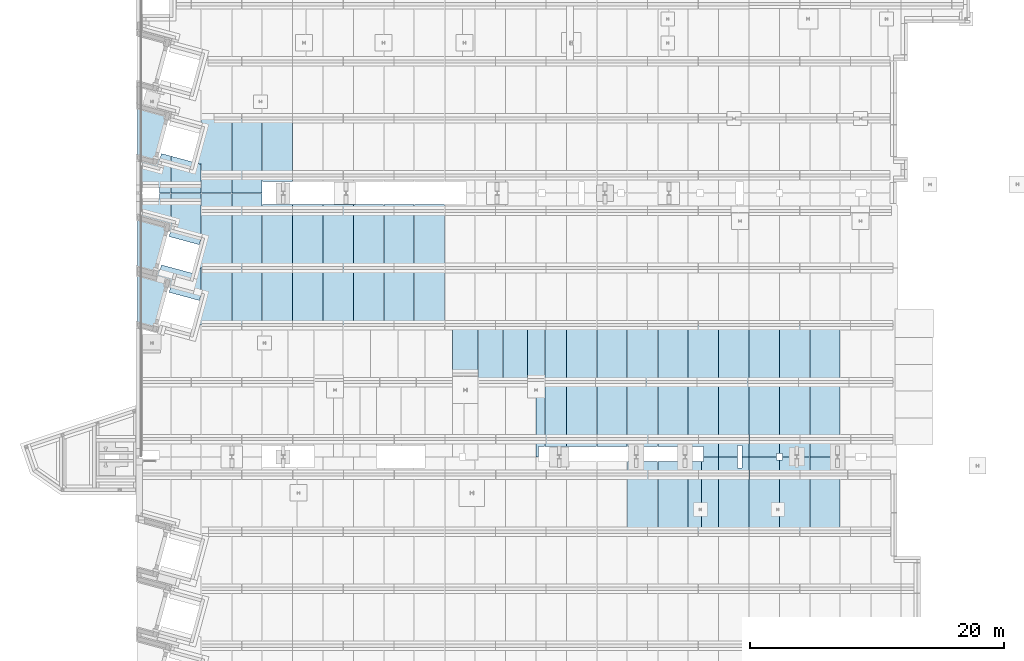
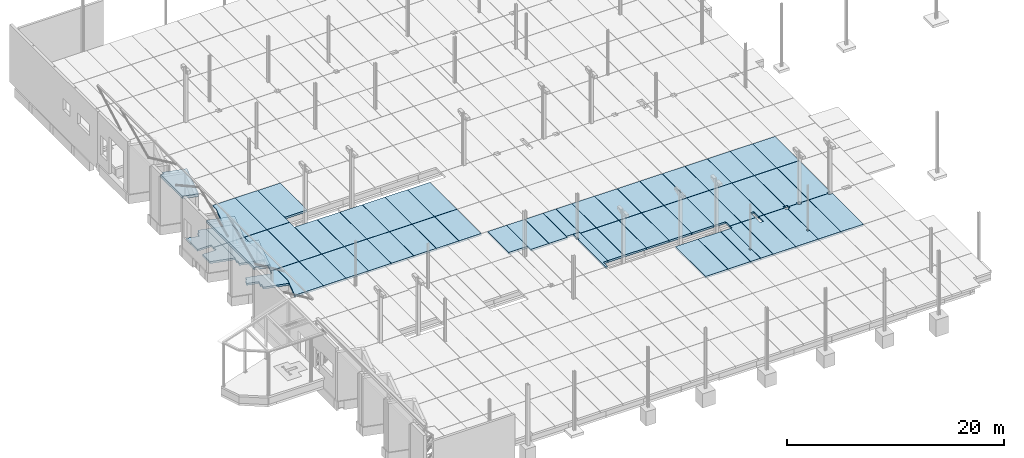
# One storey, part 48 of 59: 59 slabs.
"""IFC2X3 building model written with IfcOpenShell, lengths in metres."""

from ifc_helpers import new_model, entity, si_unit, converted_unit, derived_unit, frame, frame_2d, origin, origin_with_axes, place, context, subcontext, project, spatial, polyline, rectangle, outline, extrude, material, element, save


model = new_model("IFC2X3")

# Units and contexts
model_context = context("Model", 3, precision=1e-05, world=origin())
body_context = subcontext(model_context, "Body", "Model", "MODEL_VIEW")
ifc_project = project(units=[si_unit("LENGTHUNIT", "METRE"), si_unit("AREAUNIT", "SQUARE_METRE"), si_unit("VOLUMEUNIT", "CUBIC_METRE"), si_unit("MASSUNIT", "GRAM", prefix="KILO"), converted_unit("PLANEANGLEUNIT", "DEGREE", entity("IfcPlaneAngleMeasure", 0.0174532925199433), si_unit("PLANEANGLEUNIT", "RADIAN"), dimensions=[0, 0, 0, 0, 0, 0, 0]), derived_unit("THERMALTRANSMITTANCEUNIT", [(si_unit("POWERUNIT", "WATT"), 1), (si_unit("THERMODYNAMICTEMPERATUREUNIT", "KELVIN"), -1), (si_unit("LENGTHUNIT", "METRE"), -2)]), derived_unit("VOLUMETRICFLOWRATEUNIT", [(si_unit("LENGTHUNIT", "METRE"), 3), (converted_unit("TIMEUNIT", "hour", entity("IfcTimeMeasure", 3600.0), si_unit("TIMEUNIT", "SECOND"), dimensions=[0, 0, 1, 0, 0, 0, 0]), -1), (si_unit("LENGTHUNIT", "METRE"), -1)])], contexts=[model_context])

# Site, building, storey
site_placement = place(None, origin())
site = spatial("IfcSite", under=ifc_project, at=site_placement, Name="TWP_Speiseverteilzentrum SBW VZ II", CompositionType="ELEMENT")
building_placement = place(site_placement, origin())
building = spatial("IfcBuilding", under=site, at=building_placement, Name="Speiseverteilzentrum SBW VZ II", CompositionType="ELEMENT")
storey_placement = place(building_placement, frame((0.0, 0.0, 1.7307)))
storey = spatial("IfcBuildingStorey", under=building, at=storey_placement, Name="EG_Produktion_FFB", CompositionType="ELEMENT", Elevation=1.7307)

# Slabs
ifc_material_1 = material(Name="Stahlbeton")
slab_1_placement = place(storey_placement, frame((9.33999999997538, 40.6800323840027, 4.2)))
element("IfcSlab", 1, at=slab_1_placement, inside=storey, material=ifc_material_1, Name="Stb.-Rahmen", PredefinedType="ROOF", context=body_context, shape_type="SweptSolid", body=[
    extrude(outline(polyline([(0.0, 9.15379601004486), (0.0, 0.403404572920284), (1.49195659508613, 0.0), (2.58802923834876, 4.05372898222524), (1.47930604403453, 4.35351250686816), (2.58802923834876, 8.45402844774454), (0.0, 9.15379601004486)])), origin_with_axes(), (0.0, 0.0, 1.0), 0.3),
])
ifc_material_2 = material(Name="Stahlbeton")
slab_2_placement = place(storey_placement, frame((9.33999999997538, 53.8638403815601, 4.2)))
element("IfcSlab", 2, at=slab_2_placement, inside=storey, material=ifc_material_2, Name="Stb.-Rahmen", PredefinedType="ROOF", context=body_context, shape_type="SweptSolid", body=[
    extrude(outline(polyline([(-0.47999763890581, 1.3726335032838), (-0.779997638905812, 1.45374938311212), (-0.779997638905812, -2.5855697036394), (0.711958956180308, -2.98897427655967), (1.80803159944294, 1.06475470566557), (-0.47999763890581, 1.68340638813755), (-0.47999763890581, 1.3726335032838)])), frame((0.779997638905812, 2.98897427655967, 0.0), z_axis=(0.0, 0.0, 1.0), x_axis=(1.0, 0.0, 0.0)), (0.0, 0.0, 1.0), 0.3),
])
ifc_material_3 = material(Name="Stahlbetonfertigteil")
slab_3_placement = place(storey_placement, frame((23.9999999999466, 41.2100000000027, -0.47)))
element("IfcSlab", 3, at=slab_3_placement, inside=storey, material=ifc_material_3, Name="Stahlbetonfertigteilplatte", PredefinedType="BASESLAB", context=body_context, shape_type="SweptSolid", body=[
    extrude(rectangle(XDim=4.47999999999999, YDim=2.38, at=frame_2d((1.19, -2.23999999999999), x_axis=(0.0, -1.0))), frame((0.0, 4.47999999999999, 0.0), z_axis=(0.0, 0.0, 1.0), x_axis=(1.0, 0.0, 0.0)), (0.0, 0.0, 1.0), 0.22),
])
ifc_material_4 = material(Name="Stahlbetonfertigteil")
slab_4_placement = place(storey_placement, frame((16.7999999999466, 41.2100000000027, -0.47)))
element("IfcSlab", 4, at=slab_4_placement, inside=storey, material=ifc_material_4, Name="Stahlbetonfertigteilplatte", PredefinedType="BASESLAB", context=body_context, shape_type="SweptSolid", body=[
    extrude(rectangle(XDim=4.47999999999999, YDim=2.38, at=frame_2d((1.19, -2.23999999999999), x_axis=(0.0, -1.0))), frame((0.0, 4.47999999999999, 0.0), z_axis=(0.0, 0.0, 1.0), x_axis=(1.0, 0.0, 0.0)), (0.0, 0.0, 1.0), 0.22),
])
ifc_material_5 = material(Name="Stahlbetonfertigteil")
slab_5_placement = place(storey_placement, frame((19.1999999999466, 41.2100000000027, -0.47)))
element("IfcSlab", 5, at=slab_5_placement, inside=storey, material=ifc_material_5, Name="Stahlbetonfertigteilplatte", PredefinedType="BASESLAB", context=body_context, shape_type="SweptSolid", body=[
    extrude(rectangle(XDim=4.47999999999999, YDim=2.38, at=frame_2d((1.19, -2.23999999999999), x_axis=(0.0, -1.0))), frame((0.0, 4.47999999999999, 0.0), z_axis=(0.0, 0.0, 1.0), x_axis=(1.0, 0.0, 0.0)), (0.0, 0.0, 1.0), 0.22),
])
ifc_material_6 = material(Name="Stahlbetonfertigteil")
slab_6_placement = place(storey_placement, frame((21.5999999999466, 41.2100000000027, -0.47)))
element("IfcSlab", 6, at=slab_6_placement, inside=storey, material=ifc_material_6, Name="Stahlbetonfertigteilplatte", PredefinedType="BASESLAB", context=body_context, shape_type="SweptSolid", body=[
    extrude(rectangle(XDim=4.47999999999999, YDim=2.38, at=frame_2d((1.19, -2.23999999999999), x_axis=(0.0, -1.0))), frame((0.0, 4.47999999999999, 0.0), z_axis=(0.0, 0.0, 1.0), x_axis=(1.0, 0.0, 0.0)), (0.0, 0.0, 1.0), 0.22),
])
ifc_material_7 = material(Name="Stahlbetonfertigteil")
slab_7_placement = place(storey_placement, frame((26.3999999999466, 41.2100000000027, -0.47)))
element("IfcSlab", 7, at=slab_7_placement, inside=storey, material=ifc_material_7, Name="Stahlbetonfertigteilplatte", PredefinedType="BASESLAB", context=body_context, shape_type="SweptSolid", body=[
    extrude(rectangle(XDim=4.47999999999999, YDim=2.38, at=frame_2d((1.19, -2.23999999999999), x_axis=(0.0, -1.0))), frame((0.0, 4.47999999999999, 0.0), z_axis=(0.0, 0.0, 1.0), x_axis=(1.0, 0.0, 0.0)), (0.0, 0.0, 1.0), 0.22),
])
ifc_material_8 = material(Name="Stahlbetonfertigteil")
slab_8_placement = place(storey_placement, frame((28.7999999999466, 41.2100000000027, -0.47)))
element("IfcSlab", 8, at=slab_8_placement, inside=storey, material=ifc_material_8, Name="Stahlbetonfertigteilplatte", PredefinedType="BASESLAB", context=body_context, shape_type="SweptSolid", body=[
    extrude(rectangle(XDim=4.47999999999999, YDim=2.38, at=frame_2d((1.19, -2.23999999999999), x_axis=(0.0, -1.0))), frame((0.0, 4.47999999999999, 0.0), z_axis=(0.0, 0.0, 1.0), x_axis=(1.0, 0.0, 0.0)), (0.0, 0.0, 1.0), 0.22),
])
ifc_material_9 = material(Name="Stahlbetonfertigteil")
slab_9_placement = place(storey_placement, frame((31.1999999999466, 41.2100000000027, -0.47)))
element("IfcSlab", 9, at=slab_9_placement, inside=storey, material=ifc_material_9, Name="Stahlbetonfertigteilplatte", PredefinedType="BASESLAB", context=body_context, shape_type="SweptSolid", body=[
    extrude(rectangle(XDim=4.47999999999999, YDim=2.38, at=frame_2d((1.19, -2.23999999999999), x_axis=(0.0, -1.0))), frame((0.0, 4.47999999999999, 0.0), z_axis=(0.0, 0.0, 1.0), x_axis=(1.0, 0.0, 0.0)), (0.0, 0.0, 1.0), 0.22),
])
ifc_material_10 = material(Name="Stahlbetonfertigteil")
slab_10_placement = place(storey_placement, frame((43.1999999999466, 36.7100000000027, -0.47)))
element("IfcSlab", 10, at=slab_10_placement, inside=storey, material=ifc_material_10, Name="Stahlbetonfertigteilplatte", PredefinedType="BASESLAB", context=body_context, shape_type="SweptSolid", body=[
    extrude(rectangle(XDim=4.47999999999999, YDim=2.38, at=frame_2d((1.19, -2.23999999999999), x_axis=(0.0, -1.0))), frame((0.0, 4.47999999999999, 0.0), z_axis=(0.0, 0.0, 1.0), x_axis=(1.0, 0.0, 0.0)), (0.0, 0.0, 1.0), 0.22),
])
ifc_material_11 = material(Name="Stahlbetonfertigteil")
slab_11_placement = place(storey_placement, frame((47.9999999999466, 36.7100000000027, -0.47)))
element("IfcSlab", 11, at=slab_11_placement, inside=storey, material=ifc_material_11, Name="Stahlbetonfertigteilplatte", PredefinedType="BASESLAB", context=body_context, shape_type="SweptSolid", body=[
    extrude(rectangle(XDim=4.47999999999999, YDim=2.38, at=frame_2d((1.19, -2.23999999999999), x_axis=(0.0, -1.0))), frame((0.0, 4.47999999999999, 0.0), z_axis=(0.0, 0.0, 1.0), x_axis=(1.0, 0.0, 0.0)), (0.0, 0.0, 1.0), 0.22),
])
ifc_material_12 = material(Name="Stahlbetonfertigteil")
slab_12_placement = place(storey_placement, frame((50.3999999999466, 36.7100000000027, -0.47)))
element("IfcSlab", 12, at=slab_12_placement, inside=storey, material=ifc_material_12, Name="Stahlbetonfertigteilplatte", PredefinedType="BASESLAB", context=body_context, shape_type="SweptSolid", body=[
    extrude(rectangle(XDim=4.47999999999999, YDim=2.38, at=frame_2d((1.19, -2.23999999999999), x_axis=(0.0, -1.0))), frame((0.0, 4.47999999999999, 0.0), z_axis=(0.0, 0.0, 1.0), x_axis=(1.0, 0.0, 0.0)), (0.0, 0.0, 1.0), 0.22),
])
ifc_material_13 = material(Name="Stahlbetonfertigteil")
slab_13_placement = place(storey_placement, frame((52.7999999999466, 36.7100000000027, -0.47)))
element("IfcSlab", 13, at=slab_13_placement, inside=storey, material=ifc_material_13, Name="Stahlbetonfertigteilplatte", PredefinedType="BASESLAB", context=body_context, shape_type="SweptSolid", body=[
    extrude(rectangle(XDim=4.47999999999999, YDim=2.38, at=frame_2d((1.19, -2.23999999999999), x_axis=(0.0, -1.0))), frame((0.0, 4.47999999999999, 0.0), z_axis=(0.0, 0.0, 1.0), x_axis=(1.0, 0.0, 0.0)), (0.0, 0.0, 1.0), 0.22),
])
ifc_material_14 = material(Name="Stahlbetonfertigteil")
slab_14_placement = place(storey_placement, frame((55.1999999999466, 36.7100000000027, -0.47)))
element("IfcSlab", 14, at=slab_14_placement, inside=storey, material=ifc_material_14, Name="Stahlbetonfertigteilplatte", PredefinedType="BASESLAB", context=body_context, shape_type="SweptSolid", body=[
    extrude(rectangle(XDim=4.47999999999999, YDim=2.38, at=frame_2d((1.19, -2.23999999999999), x_axis=(0.0, -1.0))), frame((0.0, 4.47999999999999, 0.0), z_axis=(0.0, 0.0, 1.0), x_axis=(1.0, 0.0, 0.0)), (0.0, 0.0, 1.0), 0.22),
])
ifc_material_15 = material(Name="Stahlbetonfertigteil")
slab_15_placement = place(storey_placement, frame((57.5999999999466, 36.7100000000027, -0.47)))
element("IfcSlab", 15, at=slab_15_placement, inside=storey, material=ifc_material_15, Name="Stahlbetonfertigteilplatte", PredefinedType="BASESLAB", context=body_context, shape_type="SweptSolid", body=[
    extrude(rectangle(XDim=4.47999999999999, YDim=2.38, at=frame_2d((1.19, -2.23999999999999), x_axis=(0.0, -1.0))), frame((0.0, 4.47999999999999, 0.0), z_axis=(0.0, 0.0, 1.0), x_axis=(1.0, 0.0, 0.0)), (0.0, 0.0, 1.0), 0.22),
])
ifc_material_16 = material(Name="Stahlbetonfertigteil")
slab_16_placement = place(storey_placement, frame((59.9999999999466, 36.7100000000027, -0.47)))
element("IfcSlab", 16, at=slab_16_placement, inside=storey, material=ifc_material_16, Name="Stahlbetonfertigteilplatte", PredefinedType="BASESLAB", context=body_context, shape_type="SweptSolid", body=[
    extrude(rectangle(XDim=4.47999999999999, YDim=2.38, at=frame_2d((1.19, -2.23999999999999), x_axis=(0.0, -1.0))), frame((0.0, 4.47999999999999, 0.0), z_axis=(0.0, 0.0, 1.0), x_axis=(1.0, 0.0, 0.0)), (0.0, 0.0, 1.0), 0.22),
])
ifc_material_17 = material(Name="Stahlbetonfertigteil")
slab_17_placement = place(storey_placement, frame((62.3999999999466, 36.7100000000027, -0.47)))
element("IfcSlab", 17, at=slab_17_placement, inside=storey, material=ifc_material_17, Name="Stahlbetonfertigteilplatte", PredefinedType="BASESLAB", context=body_context, shape_type="SweptSolid", body=[
    extrude(rectangle(XDim=4.47999999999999, YDim=2.38, at=frame_2d((1.19, -2.23999999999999), x_axis=(0.0, -1.0))), frame((0.0, 4.47999999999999, 0.0), z_axis=(0.0, 0.0, 1.0), x_axis=(1.0, 0.0, 0.0)), (0.0, 0.0, 1.0), 0.22),
])
ifc_material_18 = material(Name="Stahlbetonfertigteil")
slab_18_placement = place(storey_placement, frame((45.5999999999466, 36.7100000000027, -0.47)))
element("IfcSlab", 18, at=slab_18_placement, inside=storey, material=ifc_material_18, Name="Stahlbetonfertigteilplatte", PredefinedType="BASESLAB", context=body_context, shape_type="SweptSolid", body=[
    extrude(rectangle(XDim=4.47999999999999, YDim=2.38, at=frame_2d((1.19, -2.23999999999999), x_axis=(0.0, -1.0))), frame((0.0, 4.47999999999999, 0.0), z_axis=(0.0, 0.0, 1.0), x_axis=(1.0, 0.0, 0.0)), (0.0, 0.0, 1.0), 0.22),
])
ifc_material_19 = material(Name="Stahlbetonfertigteil")
slab_19_placement = place(storey_placement, frame((19.1999999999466, 52.51, -0.47)))
element("IfcSlab", 19, at=slab_19_placement, inside=storey, material=ifc_material_19, Name="Stahlbetonfertigteilplatte", PredefinedType="BASESLAB", context=body_context, shape_type="SweptSolid", body=[
    extrude(rectangle(XDim=4.9800000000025, YDim=2.38, at=frame_2d((-1.19, 2.49000000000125), x_axis=(0.0, 1.0))), frame((2.38, 0.0, 0.0), z_axis=(0.0, 0.0, 1.0), x_axis=(1.0, 0.0, 0.0)), (0.0, 0.0, 1.0), 0.22),
])
ifc_material_20 = material(Name="Stahlbetonfertigteil")
slab_20_placement = place(storey_placement, frame((16.7999999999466, 51.6100000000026, -0.47)))
element("IfcSlab", 20, at=slab_20_placement, inside=storey, material=ifc_material_20, Name="Stahlbetonfertigteilplatte", PredefinedType="BASESLAB", context=body_context, shape_type="SweptSolid", body=[
    extrude(rectangle(XDim=5.87999999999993, YDim=2.38, at=frame_2d((1.19, -2.93999999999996), x_axis=(0.0, -1.0))), frame((0.0, 5.87999999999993, 0.0), z_axis=(0.0, 0.0, 1.0), x_axis=(1.0, 0.0, 0.0)), (0.0, 0.0, 1.0), 0.22),
])
ifc_material_21 = material(Name="Stahlbetonfertigteil")
slab_21_placement = place(storey_placement, frame((62.3999999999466, 30.8100000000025, -0.47)))
element("IfcSlab", 21, at=slab_21_placement, inside=storey, material=ifc_material_21, Name="Stahlbetonfertigteilplatte", PredefinedType="BASESLAB", context=body_context, shape_type="SweptSolid", body=[
    extrude(outline(polyline([(2.38, 0.175103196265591), (2.38, 5.87999999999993), (0.0, 5.87999999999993), (0.0, 0.0), (1.99500000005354, 0.0), (1.99500000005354, 0.175103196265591), (2.38, 0.175103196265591)])), origin_with_axes(), (0.0, 0.0, 1.0), 0.22),
])
ifc_material_22 = material(Name="Stahlbetonfertigteil")
slab_22_placement = place(storey_placement, frame((62.3999999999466, 24.9100000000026, -0.47)))
element("IfcSlab", 22, at=slab_22_placement, inside=storey, material=ifc_material_22, Name="Stahlbetonfertigteilplatte", PredefinedType="BASESLAB", context=body_context, shape_type="SweptSolid", body=[
    extrude(outline(polyline([(0.0, 0.0), (2.38, 0.0), (2.38, 5.7051031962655), (1.99500000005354, 5.7051031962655), (1.99500000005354, 5.87999999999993), (0.0, 5.87999999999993), (0.0, 0.0)])), origin_with_axes(), (0.0, 0.0, 1.0), 0.22),
])
ifc_material_23 = material(Name="Stahlbetonfertigteil")
slab_23_placement = place(storey_placement, frame((57.5999999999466, 30.8100000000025, -0.47)))
element("IfcSlab", 23, at=slab_23_placement, inside=storey, material=ifc_material_23, Name="Stahlbetonfertigteilplatte", PredefinedType="BASESLAB", context=body_context, shape_type="SweptSolid", body=[
    extrude(outline(polyline([(2.38, 0.240103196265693), (2.38, 5.87999999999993), (0.0, 5.87999999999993), (0.0, 0.0), (2.15000000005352, 0.0), (2.15000000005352, 0.240103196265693), (2.38, 0.240103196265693)])), origin_with_axes(), (0.0, 0.0, 1.0), 0.22),
])
ifc_material_24 = material(Name="Stahlbetonfertigteil")
slab_24_placement = place(storey_placement, frame((55.1999999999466, 30.8100000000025, -0.47)))
element("IfcSlab", 24, at=slab_24_placement, inside=storey, material=ifc_material_24, Name="Stahlbetonfertigteilplatte", PredefinedType="BASESLAB", context=body_context, shape_type="SweptSolid", body=[
    extrude(outline(polyline([(1.85000000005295, 0.899999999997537), (1.85000000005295, 0.0), (2.38, 0.0), (2.38, 5.87999999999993), (0.0, 5.87999999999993), (0.0, 0.0), (1.50000000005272, 0.0), (1.50000000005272, 0.899999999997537), (1.85000000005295, 0.899999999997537)])), origin_with_axes(), (0.0, 0.0, 1.0), 0.22),
])
ifc_material_25 = material(Name="Stahlbetonfertigteil")
slab_25_placement = place(storey_placement, frame((55.1999999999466, 24.9100000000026, -0.47)))
element("IfcSlab", 25, at=slab_25_placement, inside=storey, material=ifc_material_25, Name="Stahlbetonfertigteilplatte", PredefinedType="BASESLAB", context=body_context, shape_type="SweptSolid", body=[
    extrude(outline(polyline([(1.50000000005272, 5.01725265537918), (1.50000000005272, 5.87999999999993), (0.0, 5.87999999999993), (0.0, 0.0), (2.38, 0.0), (2.38, 5.87999999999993), (1.85000000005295, 5.87999999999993), (1.85000000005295, 5.01725265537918), (1.50000000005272, 5.01725265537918)])), origin_with_axes(), (0.0, 0.0, 1.0), 0.22),
])
ifc_material_26 = material(Name="Stahlbetonfertigteil")
slab_26_placement = place(storey_placement, frame((52.7999999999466, 30.8100000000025, -0.47)))
element("IfcSlab", 26, at=slab_26_placement, inside=storey, material=ifc_material_26, Name="Stahlbetonfertigteilplatte", PredefinedType="BASESLAB", context=body_context, shape_type="SweptSolid", body=[
    extrude(outline(polyline([(2.38, 0.0), (2.38, 5.87999999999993), (0.0, 5.87999999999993), (0.0, 0.799999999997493), (1.20000000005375, 0.799999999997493), (1.20000000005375, 0.0), (2.38, 0.0)])), origin_with_axes(), (0.0, 0.0, 1.0), 0.22),
])
ifc_material_27 = material(Name="Stahlbetonfertigteil")
slab_27_placement = place(storey_placement, frame((47.9999999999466, 24.9100000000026, -0.47)))
element("IfcSlab", 27, at=slab_27_placement, inside=storey, material=ifc_material_27, Name="Stahlbetonfertigteilplatte", PredefinedType="BASESLAB", context=body_context, shape_type="SweptSolid", body=[
    extrude(rectangle(XDim=5.53999999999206, YDim=2.38, at=frame_2d((1.19, -2.76999999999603), x_axis=(0.0, -1.0))), frame((0.0, 5.53999999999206, 0.0), z_axis=(0.0, 0.0, 1.0), x_axis=(1.0, 0.0, 0.0)), (0.0, 0.0, 1.0), 0.22),
])
ifc_material_28 = material(Name="Stahlbetonfertigteil")
slab_28_placement = place(storey_placement, frame((50.3999999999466, 24.9100000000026, -0.47)))
element("IfcSlab", 28, at=slab_28_placement, inside=storey, material=ifc_material_28, Name="Stahlbetonfertigteilplatte", PredefinedType="BASESLAB", context=body_context, shape_type="SweptSolid", body=[
    extrude(rectangle(XDim=5.53999999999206, YDim=2.38, at=frame_2d((1.19, -2.76999999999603), x_axis=(0.0, -1.0))), frame((0.0, 5.53999999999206, 0.0), z_axis=(0.0, 0.0, 1.0), x_axis=(1.0, 0.0, 0.0)), (0.0, 0.0, 1.0), 0.22),
])
ifc_material_29 = material(Name="Stahlbetonfertigteil")
slab_29_placement = place(storey_placement, frame((47.9999999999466, 31.61, -0.47)))
element("IfcSlab", 29, at=slab_29_placement, inside=storey, material=ifc_material_29, Name="Stahlbetonfertigteilplatte", PredefinedType="BASESLAB", context=body_context, shape_type="SweptSolid", body=[
    extrude(rectangle(XDim=5.08000000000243, YDim=2.38, at=frame_2d((1.19, -2.54000000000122), x_axis=(0.0, -1.0))), frame((0.0, 5.08000000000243, 0.0), z_axis=(0.0, 0.0, 1.0), x_axis=(1.0, 0.0, 0.0)), (0.0, 0.0, 1.0), 0.22),
])
ifc_material_30 = material(Name="Stahlbetonfertigteil")
slab_30_placement = place(storey_placement, frame((50.3999999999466, 31.61, -0.47)))
element("IfcSlab", 30, at=slab_30_placement, inside=storey, material=ifc_material_30, Name="Stahlbetonfertigteilplatte", PredefinedType="BASESLAB", context=body_context, shape_type="SweptSolid", body=[
    extrude(rectangle(XDim=5.08000000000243, YDim=2.38, at=frame_2d((1.19, -2.54000000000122), x_axis=(0.0, -1.0))), frame((0.0, 5.08000000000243, 0.0), z_axis=(0.0, 0.0, 1.0), x_axis=(1.0, 0.0, 0.0)), (0.0, 0.0, 1.0), 0.22),
])
ifc_material_31 = material(Name="Stahlbetonfertigteil")
slab_31_placement = place(storey_placement, frame((45.5999999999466, 31.61, -0.47)))
element("IfcSlab", 31, at=slab_31_placement, inside=storey, material=ifc_material_31, Name="Stahlbetonfertigteilplatte", PredefinedType="BASESLAB", context=body_context, shape_type="SweptSolid", body=[
    extrude(rectangle(XDim=5.08000000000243, YDim=2.38, at=frame_2d((1.19, -2.54000000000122), x_axis=(0.0, -1.0))), frame((0.0, 5.08000000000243, 0.0), z_axis=(0.0, 0.0, 1.0), x_axis=(1.0, 0.0, 0.0)), (0.0, 0.0, 1.0), 0.22),
])
ifc_material_32 = material(Name="Stahlbetonfertigteil")
slab_32_placement = place(storey_placement, frame((57.5999999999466, 24.9100000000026, -0.47)))
element("IfcSlab", 32, at=slab_32_placement, inside=storey, material=ifc_material_32, Name="Stahlbetonfertigteilplatte", PredefinedType="BASESLAB", context=body_context, shape_type="SweptSolid", body=[
    extrude(outline(polyline([(2.14452362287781, 1.85993923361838), (2.38, 1.85993923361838), (2.38, 5.63999999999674), (2.15000000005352, 5.63999999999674), (2.15000000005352, 5.87999999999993), (0.0, 5.87999999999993), (0.0, 0.0), (2.38, 0.0), (2.38, 1.61993923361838), (2.14452362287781, 1.61993923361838), (2.14452362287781, 1.85993923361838)])), origin_with_axes(), (0.0, 0.0, 1.0), 0.22),
])
ifc_material_33 = material(Name="Stahlbetonfertigteil")
slab_33_placement = place(storey_placement, frame((52.7999999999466, 24.9100000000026, -0.47)))
element("IfcSlab", 33, at=slab_33_placement, inside=storey, material=ifc_material_33, Name="Stahlbetonfertigteilplatte", PredefinedType="BASESLAB", context=body_context, shape_type="SweptSolid", body=[
    extrude(outline(polyline([(0.834581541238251, 1.85993923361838), (1.04458154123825, 1.85993923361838), (1.04458154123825, 5.53999999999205), (0.0, 5.53999999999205), (0.0, 0.0), (1.04458154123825, 0.0), (1.04458154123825, 1.61993923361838), (0.834581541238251, 1.61993923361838), (0.834581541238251, 1.85993923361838)])), origin_with_axes(), (0.0, 0.0, 1.0), 0.22),
])
ifc_material_34 = material(Name="Stahlbetonfertigteil")
slab_34_placement = place(storey_placement, frame((53.8645815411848, 24.9100000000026, -0.47)))
element("IfcSlab", 34, at=slab_34_placement, inside=storey, material=ifc_material_34, Name="Stahlbetonfertigteilplatte", PredefinedType="BASESLAB", context=body_context, shape_type="SweptSolid", body=[
    extrude(outline(polyline([(0.135418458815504, 5.87999999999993), (0.135418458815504, 5.53999999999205), (0.0, 5.53999999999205), (0.0, 0.0), (1.31541845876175, 0.0), (1.31541845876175, 5.87999999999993), (0.135418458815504, 5.87999999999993)])), origin_with_axes(), (0.0, 0.0, 1.0), 0.22),
])
ifc_material_35 = material(Name="Stahlbetonfertigteil")
slab_35_placement = place(storey_placement, frame((43.1999999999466, 31.61, -0.47)))
element("IfcSlab", 35, at=slab_35_placement, inside=storey, material=ifc_material_35, Name="Stahlbetonfertigteilplatte", PredefinedType="BASESLAB", context=body_context, shape_type="SweptSolid", body=[
    extrude(rectangle(XDim=5.08000000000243, YDim=2.38, at=frame_2d((1.19, -2.54000000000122), x_axis=(0.0, -1.0))), frame((0.0, 5.08000000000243, 0.0), z_axis=(0.0, 0.0, 1.0), x_axis=(1.0, 0.0, 0.0)), (0.0, 0.0, 1.0), 0.22),
])
ifc_material_36 = material(Name="Stahlbetonfertigteil")
slab_36_placement = place(storey_placement, frame((31.1999999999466, 45.7100000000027, -0.47)))
element("IfcSlab", 36, at=slab_36_placement, inside=storey, material=ifc_material_36, Name="Stahlbetonfertigteilplatte", PredefinedType="BASESLAB", context=body_context, shape_type="SweptSolid", body=[
    extrude(rectangle(XDim=4.98999999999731, YDim=2.38, at=frame_2d((1.19, -2.49499999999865), x_axis=(0.0, -1.0))), frame((0.0, 4.98999999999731, 0.0), z_axis=(0.0, 0.0, 1.0), x_axis=(1.0, 0.0, 0.0)), (0.0, 0.0, 1.0), 0.22),
])
ifc_material_37 = material(Name="Stahlbetonfertigteil")
slab_37_placement = place(storey_placement, frame((28.7999999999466, 45.7100000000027, -0.47)))
element("IfcSlab", 37, at=slab_37_placement, inside=storey, material=ifc_material_37, Name="Stahlbetonfertigteilplatte", PredefinedType="BASESLAB", context=body_context, shape_type="SweptSolid", body=[
    extrude(rectangle(XDim=4.98999999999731, YDim=2.38, at=frame_2d((1.19, -2.49499999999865), x_axis=(0.0, -1.0))), frame((0.0, 4.98999999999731, 0.0), z_axis=(0.0, 0.0, 1.0), x_axis=(1.0, 0.0, 0.0)), (0.0, 0.0, 1.0), 0.22),
])
ifc_material_38 = material(Name="Stahlbetonfertigteil")
slab_38_placement = place(storey_placement, frame((26.3999999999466, 45.7100000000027, -0.47)))
element("IfcSlab", 38, at=slab_38_placement, inside=storey, material=ifc_material_38, Name="Stahlbetonfertigteilplatte", PredefinedType="BASESLAB", context=body_context, shape_type="SweptSolid", body=[
    extrude(rectangle(XDim=4.98999999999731, YDim=2.38, at=frame_2d((1.19, -2.49499999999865), x_axis=(0.0, -1.0))), frame((0.0, 4.98999999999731, 0.0), z_axis=(0.0, 0.0, 1.0), x_axis=(1.0, 0.0, 0.0)), (0.0, 0.0, 1.0), 0.22),
])
ifc_material_39 = material(Name="Stahlbetonfertigteil")
slab_39_placement = place(storey_placement, frame((23.9999999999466, 45.7100000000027, -0.47)))
element("IfcSlab", 39, at=slab_39_placement, inside=storey, material=ifc_material_39, Name="Stahlbetonfertigteilplatte", PredefinedType="BASESLAB", context=body_context, shape_type="SweptSolid", body=[
    extrude(rectangle(XDim=4.98999999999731, YDim=2.38, at=frame_2d((1.19, -2.49499999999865), x_axis=(0.0, -1.0))), frame((0.0, 4.98999999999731, 0.0), z_axis=(0.0, 0.0, 1.0), x_axis=(1.0, 0.0, 0.0)), (0.0, 0.0, 1.0), 0.22),
])
ifc_material_40 = material(Name="Stahlbetonfertigteil")
slab_40_placement = place(storey_placement, frame((21.5999999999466, 45.7100000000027, -0.47)))
element("IfcSlab", 40, at=slab_40_placement, inside=storey, material=ifc_material_40, Name="Stahlbetonfertigteilplatte", PredefinedType="BASESLAB", context=body_context, shape_type="SweptSolid", body=[
    extrude(rectangle(XDim=4.98999999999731, YDim=2.38, at=frame_2d((1.19, -2.49499999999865), x_axis=(0.0, -1.0))), frame((0.0, 4.98999999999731, 0.0), z_axis=(0.0, 0.0, 1.0), x_axis=(1.0, 0.0, 0.0)), (0.0, 0.0, 1.0), 0.22),
])
ifc_material_41 = material(Name="Stahlbetonfertigteil")
slab_41_placement = place(storey_placement, frame((19.1999999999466, 45.7100000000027, -0.47)))
element("IfcSlab", 41, at=slab_41_placement, inside=storey, material=ifc_material_41, Name="Stahlbetonfertigteilplatte", PredefinedType="BASESLAB", context=body_context, shape_type="SweptSolid", body=[
    extrude(rectangle(XDim=2.38, YDim=4.98999999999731, at=frame_2d((1.19, 2.49499999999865), x_axis=(1.0, 0.0))), origin_with_axes(), (0.0, 0.0, 1.0), 0.22),
])
ifc_material_42 = material(Name="Stahlbetonfertigteil")
slab_42_placement = place(storey_placement, frame((16.7999999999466, 45.7100000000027, -0.47)))
element("IfcSlab", 42, at=slab_42_placement, inside=storey, material=ifc_material_42, Name="Stahlbetonfertigteilplatte", PredefinedType="BASESLAB", context=body_context, shape_type="SweptSolid", body=[
    extrude(rectangle(XDim=5.87999999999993, YDim=2.38, at=frame_2d((1.19, -2.93999999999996), x_axis=(0.0, -1.0))), frame((0.0, 5.87999999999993, 0.0), z_axis=(0.0, 0.0, 1.0), x_axis=(1.0, 0.0, 0.0)), (0.0, 0.0, 1.0), 0.22),
])
ifc_material_43 = material(Name="Stahlbetonfertigteil")
slab_43_placement = place(storey_placement, frame((9.65999999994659, 51.6100000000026, -0.47)))
element("IfcSlab", 43, at=slab_43_placement, inside=storey, material=ifc_material_43, Name="Stahlbetonfertigteilplatte", PredefinedType="BASESLAB", context=body_context, shape_type="SweptSolid", body=[
    extrude(outline(polyline([(1.33142333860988, 2.72867757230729), (1.19269214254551, 2.21559235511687), (0.0, 2.53807993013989), (0.0, 0.439999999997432), (1.44000000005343, 0.439999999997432), (1.44000000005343, 0.0), (2.32, 0.0), (2.32, 2.91718025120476), (1.58624282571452, 3.1155781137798), (1.47139694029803, 2.69083063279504), (1.33142333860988, 2.72867757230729)])), origin_with_axes(), (0.0, 0.0, 1.0), 0.22),
])
ifc_material_44 = material(Name="Stahlbetonfertigteil")
slab_44_placement = place(storey_placement, frame((9.65999999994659, 49.1510859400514, -0.47)))
element("IfcSlab", 44, at=slab_44_placement, inside=storey, material=ifc_material_44, Name="Stahlbetonfertigteilplatte", PredefinedType="BASESLAB", context=body_context, shape_type="SweptSolid", body=[
    extrude(outline(polyline([(0.0, 0.627296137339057), (2.32, 0.0), (2.32, 2.43891405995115), (1.44000000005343, 2.43891405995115), (1.44000000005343, 1.99891405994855), (0.0, 1.99891405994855), (0.0, 0.627296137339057)])), origin_with_axes(), (0.0, 0.0, 1.0), 0.22),
])
ifc_material_45 = material(Name="Stahlbetonfertigteil")
slab_45_placement = place(storey_placement, frame((34.2247583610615, 37.3098478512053, -0.47)))
element("IfcSlab", 45, at=slab_45_placement, inside=storey, material=ifc_material_45, Name="Stahlbetonfertigteilplatte", PredefinedType="BASESLAB", context=body_context, shape_type="SweptSolid", body=[
    extrude(rectangle(XDim=3.88015214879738, YDim=2.0, at=frame_2d((1.0, -1.94007607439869), x_axis=(0.0, -1.0))), frame((0.0, 3.88015214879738, 0.0), z_axis=(0.0, 0.0, 1.0), x_axis=(1.0, 0.0, 0.0)), (0.0, 0.0, 1.0), 0.22),
])
ifc_material_46 = material(Name="Stahlbetonfertigteil")
slab_46_placement = place(storey_placement, frame((36.2447583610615, 36.7100000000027, -0.47)))
element("IfcSlab", 46, at=slab_46_placement, inside=storey, material=ifc_material_46, Name="Stahlbetonfertigteilplatte", PredefinedType="BASESLAB", context=body_context, shape_type="SweptSolid", body=[
    extrude(rectangle(XDim=4.47999999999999, YDim=1.90997286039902, at=frame_2d((0.954986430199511, -2.23999999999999), x_axis=(0.0, -1.0))), frame((0.0, 4.47999999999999, 0.0), z_axis=(0.0, 0.0, 1.0), x_axis=(1.0, 0.0, 0.0)), (0.0, 0.0, 1.0), 0.22),
])
ifc_material_47 = material(Name="Stahlbetonfertigteil")
slab_47_placement = place(storey_placement, frame((38.1747312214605, 36.7100000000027, -0.47)))
element("IfcSlab", 47, at=slab_47_placement, inside=storey, material=ifc_material_47, Name="Stahlbetonfertigteilplatte", PredefinedType="BASESLAB", context=body_context, shape_type="SweptSolid", body=[
    extrude(rectangle(XDim=4.47999999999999, YDim=1.93497286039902, at=frame_2d((0.967486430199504, -2.23999999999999), x_axis=(0.0, -1.0))), frame((0.0, 4.47999999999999, 0.0), z_axis=(0.0, 0.0, 1.0), x_axis=(1.0, 0.0, 0.0)), (0.0, 0.0, 1.0), 0.22),
])
ifc_material_48 = material(Name="Stahlbetonfertigteil")
slab_48_placement = place(storey_placement, frame((41.4997040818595, 31.61, -0.47)))
element("IfcSlab", 48, at=slab_48_placement, inside=storey, material=ifc_material_48, Name="Stahlbetonfertigteilplatte", PredefinedType="BASESLAB", context=body_context, shape_type="SweptSolid", body=[
    extrude(rectangle(XDim=5.08000000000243, YDim=1.68029591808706, at=frame_2d((0.840147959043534, -2.54000000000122), x_axis=(0.0, -1.0))), frame((0.0, 5.08000000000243, 0.0), z_axis=(0.0, 0.0, 1.0), x_axis=(1.0, 0.0, 0.0)), (0.0, 0.0, 1.0), 0.22),
])
ifc_material_49 = material(Name="Stahlbetonfertigteil")
slab_49_placement = place(storey_placement, frame((41.4997040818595, 36.7100000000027, -0.47)))
element("IfcSlab", 49, at=slab_49_placement, inside=storey, material=ifc_material_49, Name="Stahlbetonfertigteilplatte", PredefinedType="BASESLAB", context=body_context, shape_type="SweptSolid", body=[
    extrude(rectangle(XDim=4.47999999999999, YDim=1.68029591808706, at=frame_2d((0.840147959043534, -2.23999999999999), x_axis=(0.0, -1.0))), frame((0.0, 4.47999999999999, 0.0), z_axis=(0.0, 0.0, 1.0), x_axis=(1.0, 0.0, 0.0)), (0.0, 0.0, 1.0), 0.22),
])
ifc_material_50 = material(Name="Stahlbetonfertigteil")
slab_50_placement = place(storey_placement, frame((40.7999999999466, 30.8100000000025, -0.47)))
element("IfcSlab", 50, at=slab_50_placement, inside=storey, material=ifc_material_50, Name="Stahlbetonfertigteilplatte", PredefinedType="BASESLAB", context=body_context, shape_type="SweptSolid", body=[
    extrude(outline(polyline([(0.0, 0.0), (0.2000000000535, 0.0), (0.2000000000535, 0.799999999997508), (0.67970408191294, 0.799999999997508), (0.67970408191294, 6.05484785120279), (0.0, 6.05484785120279), (0.0, 5.38984785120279), (0.11970408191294, 5.38984785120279), (0.11970408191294, 5.14984785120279), (0.0, 5.14984785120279), (0.0, 0.0)])), origin_with_axes(), (0.0, 0.0, 1.0), 0.22),
])
ifc_material_51 = material(Name="Stahlbetonfertigteil")
slab_51_placement = place(storey_placement, frame((40.1297040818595, 36.8848478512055, -0.47)))
element("IfcSlab", 51, at=slab_51_placement, inside=storey, material=ifc_material_51, Name="Stahlbetonfertigteilplatte", PredefinedType="BASESLAB", context=body_context, shape_type="SweptSolid", body=[
    extrude(rectangle(XDim=4.30515214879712, YDim=1.35, at=frame_2d((0.675, -2.15257607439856), x_axis=(0.0, -1.0))), frame((0.0, 4.30515214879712, 0.0), z_axis=(0.0, 0.0, 1.0), x_axis=(1.0, 0.0, 0.0)), (0.0, 0.0, 1.0), 0.22),
])
ifc_material_52 = material(Name="Stahlbetonfertigteil")
slab_52_placement = place(storey_placement, frame((59.9999999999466, 24.9100000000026, -0.47)))
element("IfcSlab", 52, at=slab_52_placement, inside=storey, material=ifc_material_52, Name="Stahlbetonfertigteilplatte", PredefinedType="BASESLAB", context=body_context, shape_type="SweptSolid", body=[
    extrude(outline(polyline([(0.0, 5.63999999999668), (0.0, 0.0), (2.38, 0.0), (2.38, 5.87999999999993), (1.54000000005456, 5.87999999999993), (1.54000000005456, 5.7051031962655), (1.18000000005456, 5.7051031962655), (1.18000000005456, 5.87999999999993), (0.250000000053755, 5.87999999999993), (0.250000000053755, 5.63999999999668), (0.0, 5.63999999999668)])), origin_with_axes(), (0.0, 0.0, 1.0), 0.22),
])
ifc_material_53 = material(Name="Stahlbetonfertigteil")
slab_53_placement = place(storey_placement, frame((59.9999999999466, 30.8100000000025, -0.47)))
element("IfcSlab", 53, at=slab_53_placement, inside=storey, material=ifc_material_53, Name="Stahlbetonfertigteilplatte", PredefinedType="BASESLAB", context=body_context, shape_type="SweptSolid", body=[
    extrude(outline(polyline([(2.38, 5.87999999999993), (0.0, 5.87999999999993), (0.0, 0.240103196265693), (0.250000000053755, 0.240103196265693), (0.250000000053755, 0.0), (1.18000000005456, 0.0), (1.18000000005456, 0.175103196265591), (1.54000000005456, 0.175103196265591), (1.54000000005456, 0.0), (2.38, 0.0), (2.38, 5.87999999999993)])), origin_with_axes(), (0.0, 0.0, 1.0), 0.22),
])
ifc_material_54 = material(Name="Stahlbetonfertigteil")
slab_54_placement = place(storey_placement, frame((11.9999999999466, 51.6100000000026, -0.47)))
element("IfcSlab", 54, at=slab_54_placement, inside=storey, material=ifc_material_54, Name="Stahlbetonfertigteilplatte", PredefinedType="BASESLAB", context=body_context, shape_type="SweptSolid", body=[
    extrude(outline(polyline([(2.38, 0.0), (2.38, 2.26825321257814), (0.0, 2.91177252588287), (0.0, 0.0), (2.38, 0.0)])), origin_with_axes(), (0.0, 0.0, 1.0), 0.22),
])
ifc_material_55 = material(Name="Stahlbetonfertigteil")
slab_55_placement = place(storey_placement, frame((13.6599743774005, 51.6100000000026, -0.47)))
element("IfcSlab", 55, at=slab_55_placement, inside=storey, material=ifc_material_55, Name="Stahlbetonfertigteilplatte", PredefinedType="BASESLAB", context=body_context, shape_type="SweptSolid", body=[
    extrude(outline(polyline([(0.740025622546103, 5.87999999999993), (0.740025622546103, 5.2205766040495), (0.0, 2.48365644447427), (0.740025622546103, 2.28356367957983), (0.740025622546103, 0.0), (3.1200256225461, 0.0), (3.1200256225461, 5.87999999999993), (0.740025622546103, 5.87999999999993)])), origin_with_axes(), (0.0, 0.0, 1.0), 0.22),
])
ifc_material_56 = material(Name="Stahlbetonfertigteil")
slab_56_placement = place(storey_placement, frame((11.8264826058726, 47.534960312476, -0.47)))
element("IfcSlab", 56, at=slab_56_placement, inside=storey, material=ifc_material_56, Name="Stahlbetonfertigteilplatte", PredefinedType="BASESLAB", context=body_context, shape_type="SweptSolid", body=[
    extrude(outline(polyline([(0.0, 1.10860252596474), (0.139973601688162, 1.07075558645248), (0.0251277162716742, 0.646008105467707), (2.41433229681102, 0.0), (2.55351739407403, 0.514763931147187), (2.55351739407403, 4.0550396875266), (0.173517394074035, 4.0550396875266), (0.173517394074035, 1.57964061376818), (0.127362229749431, 1.57964061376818), (0.0, 1.10860252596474)])), origin_with_axes(), (0.0, 0.0, 1.0), 0.22),
])
ifc_material_57 = material(Name="Stahlbetonfertigteil")
slab_57_placement = place(storey_placement, frame((13.768088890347, 45.7100000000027, -0.47)))
element("IfcSlab", 57, at=slab_57_placement, inside=storey, material=ifc_material_57, Name="Stahlbetonfertigteilplatte", PredefinedType="BASESLAB", context=body_context, shape_type="SweptSolid", body=[
    extrude(outline(polyline([(0.0, 0.0), (3.01191110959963, 0.0), (3.01191110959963, 5.87999999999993), (0.631911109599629, 5.87999999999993), (0.631911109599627, 2.33706807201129), (0.0, 0.0)])), origin_with_axes(), (0.0, 0.0, 1.0), 0.22),
])
ifc_material_58 = material(Name="Stahlbetonfertigteil")
slab_58_placement = place(storey_placement, frame((10.85609650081, 43.1346608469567, -0.47)))
element("IfcSlab", 58, at=slab_58_placement, inside=storey, material=ifc_material_58, Name="Stahlbetonfertigteilplatte", PredefinedType="BASESLAB", context=body_context, shape_type="SweptSolid", body=[
    extrude(outline(polyline([(0.135326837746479, 2.42050819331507), (0.0, 1.92001369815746), (1.10872319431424, 1.62023017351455), (0.970386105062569, 1.10860252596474), (1.11035970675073, 1.07075558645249), (0.995513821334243, 0.646008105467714), (3.38471840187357, 0.0), (3.5239034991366, 0.514763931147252), (3.5239034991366, 2.55533915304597), (2.90658466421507, 2.55533915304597), (2.79865760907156, 2.15618036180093), (0.390146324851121, 2.80740873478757), (0.275300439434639, 2.38266125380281), (0.135326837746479, 2.42050819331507)])), origin_with_axes(), (0.0, 0.0, 1.0), 0.22),
])
ifc_material_59 = material(Name="Stahlbetonfertigteil")
slab_59_placement = place(storey_placement, frame((13.7411312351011, 41.2100000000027, -0.47)))
element("IfcSlab", 59, at=slab_59_placement, inside=storey, material=ifc_material_59, Name="Stahlbetonfertigteilplatte", PredefinedType="BASESLAB", context=body_context, shape_type="SweptSolid", body=[
    extrude(outline(polyline([(0.658868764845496, 2.43676860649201), (0.0, 0.0), (3.0388687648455, 0.0), (3.0388687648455, 4.47999999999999), (0.658868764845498, 4.47999999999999), (0.658868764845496, 2.43676860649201)])), origin_with_axes(), (0.0, 0.0, 1.0), 0.22),
])

save(model, "model.ifc")
